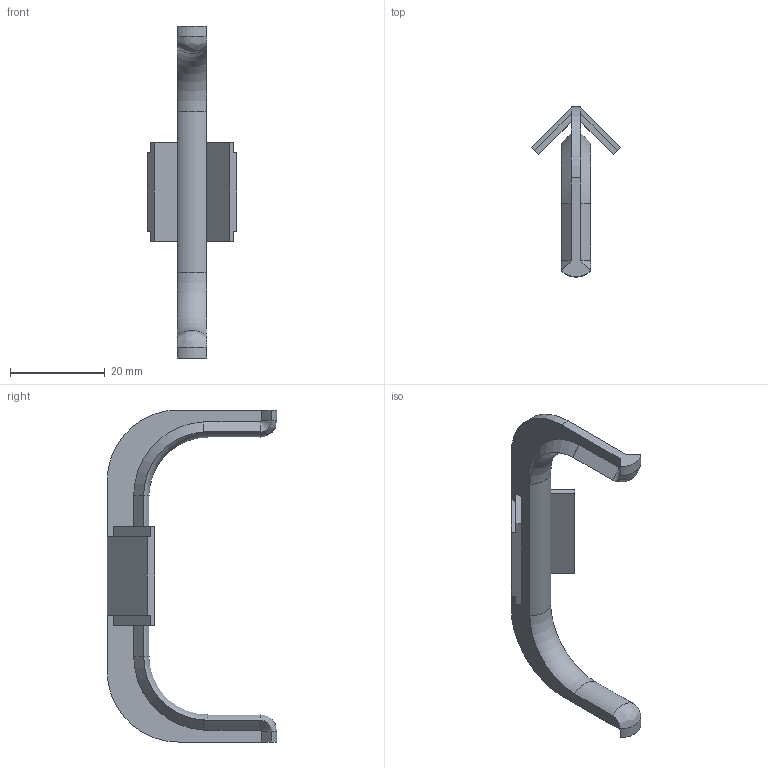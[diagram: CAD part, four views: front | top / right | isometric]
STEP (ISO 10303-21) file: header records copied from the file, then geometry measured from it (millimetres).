
FILE_DESCRIPTION( ( 'STEP AP214' ), '1' );
FILE_NAME( 'C:/Users/swati/Desktop/10-03-2016/14-03-2016/9210133/9210133.stp', ' ', ( ' ' ), ( ' ' ), 'PSStep 15.0.47', 'PARTsolutions', ' ' );
FILE_SCHEMA( ( 'AUTOMOTIVE_DESIGN { 1 0 10303 214 1 1 1 1 }' ) );
Length unit declared in the file: millimetre
Products named in the file (2): 95 ; _
Assembly tree (1 placements, depth 2):
  95 
    _
Bounding box: 18.97 x 35.79 x 70 mm (x, y, z)
Volume: 3478.6 mm3; surface area: 3703.6 mm2
Topology: 1 solids, 1 shells, 66 faces, 168 edges, 104 vertices
Faces by surface type: plane 43, cylinder 11, cone 8, torus 2, bspline 2
Entity records: 2568 total; most frequent: CARTESIAN_POINT 406, ORIENTED_EDGE 336, DIRECTION 332, EDGE_CURVE 168, LINE 120, VECTOR 120, AXIS2_PLACEMENT_3D 106, VERTEX_POINT 104
